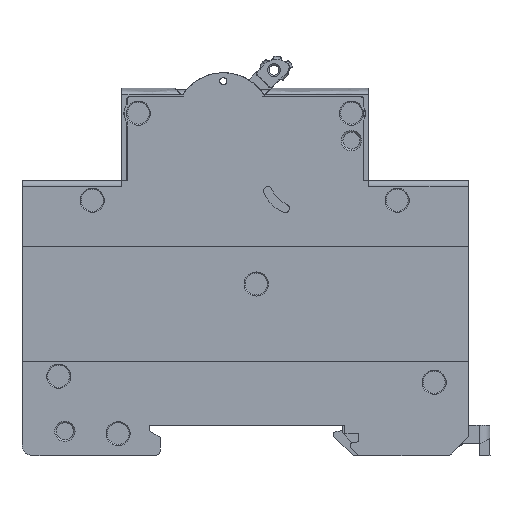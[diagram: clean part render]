
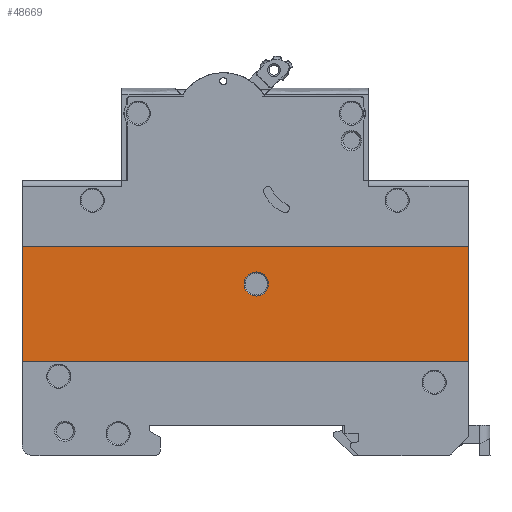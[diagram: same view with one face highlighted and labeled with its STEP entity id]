
A CAD part, left-side view. The second image highlights one B-rep face of the part: STEP entity #48669.
In plain terms, the highlighted planar face has unit normal (-1, 0, 0).
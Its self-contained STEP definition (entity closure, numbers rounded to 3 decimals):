
#10431 = CARTESIAN_POINT ( 'NONE',  ( -0.8, 0., -33.005 ) ) ;
#13716 = EDGE_CURVE ( 'NONE', #21821, #194115, #70188, .T. ) ;
#17157 = DIRECTION ( 'NONE',  ( 1., 0., 0. ) ) ;
#19890 = EDGE_LOOP ( 'NONE', ( #181759, #164590, #78314, #130432 ) ) ;
#20910 = AXIS2_PLACEMENT_3D ( 'NONE', #33735, #77571, #240454 ) ;
#21821 = VERTEX_POINT ( 'NONE', #34370 ) ;
#31173 = ORIENTED_EDGE ( 'NONE', *, *, #81270, .T. ) ;
#33735 = CARTESIAN_POINT ( 'NONE',  ( -0.8, 38.723, -18.864 ) ) ;
#34370 = CARTESIAN_POINT ( 'NONE',  ( -0.8, 0., -33.005 ) ) ;
#35940 = AXIS2_PLACEMENT_3D ( 'NONE', #120576, #17157, #159071 ) ;
#39325 = VERTEX_POINT ( 'NONE', #174456 ) ;
#48669 = ADVANCED_FACE ( 'NONE', ( #62279, #218746 ), #143100, .F. ) ;
#48924 = DIRECTION ( 'NONE',  ( 0., 1., 0. ) ) ;
#52069 = VECTOR ( 'NONE', #172202, 1000. ) ;
#54963 = VERTEX_POINT ( 'NONE', #86984 ) ;
#55674 = DIRECTION ( 'NONE',  ( 0., -1., 0. ) ) ;
#55780 = CARTESIAN_POINT ( 'NONE',  ( -0.8, 0., -12.005 ) ) ;
#62279 = FACE_OUTER_BOUND ( 'NONE', #19890, .T. ) ;
#67741 = LINE ( 'NONE', #229370, #253097 ) ;
#70188 = LINE ( 'NONE', #10431, #52069 ) ;
#77571 = DIRECTION ( 'NONE',  ( 1., 0., 0. ) ) ;
#78314 = ORIENTED_EDGE ( 'NONE', *, *, #214906, .F. ) ;
#81270 = EDGE_CURVE ( 'NONE', #188878, #253905, #219906, .T. ) ;
#81381 = EDGE_LOOP ( 'NONE', ( #31173, #82071 ) ) ;
#82071 = ORIENTED_EDGE ( 'NONE', *, *, #156606, .T. ) ;
#84778 = DIRECTION ( 'NONE',  ( 1., 0., 0. ) ) ;
#86984 = CARTESIAN_POINT ( 'NONE',  ( -0.8, 81.5, -12.005 ) ) ;
#92096 = VECTOR ( 'NONE', #239236, 1000. ) ;
#99607 = CIRCLE ( 'NONE', #35940, 2.2 ) ;
#101430 = CARTESIAN_POINT ( 'NONE',  ( -0.8, 81.5, -33.005 ) ) ;
#107518 = VECTOR ( 'NONE', #152554, 1000. ) ;
#120576 = CARTESIAN_POINT ( 'NONE',  ( -0.8, 38.723, -18.864 ) ) ;
#123215 = CARTESIAN_POINT ( 'NONE',  ( -0.8, 36.523, -18.864 ) ) ;
#130432 = ORIENTED_EDGE ( 'NONE', *, *, #252410, .F. ) ;
#143100 = PLANE ( 'NONE',  #165130 ) ;
#148259 = CARTESIAN_POINT ( 'NONE',  ( -0.8, 0., -34.08 ) ) ;
#152554 = DIRECTION ( 'NONE',  ( 0., 0., -1. ) ) ;
#155491 = EDGE_CURVE ( 'NONE', #39325, #21821, #176445, .T. ) ;
#156606 = EDGE_CURVE ( 'NONE', #253905, #188878, #99607, .T. ) ;
#156954 = CARTESIAN_POINT ( 'NONE',  ( -0.8, 81.5, -33.005 ) ) ;
#157059 = LINE ( 'NONE', #101430, #92096 ) ;
#159071 = DIRECTION ( 'NONE',  ( 0., 1., 0. ) ) ;
#164590 = ORIENTED_EDGE ( 'NONE', *, *, #155491, .F. ) ;
#165130 = AXIS2_PLACEMENT_3D ( 'NONE', #148259, #84778, #48924 ) ;
#172202 = DIRECTION ( 'NONE',  ( 0., 1., 0. ) ) ;
#174456 = CARTESIAN_POINT ( 'NONE',  ( -0.8, 0., -12.005 ) ) ;
#176445 = LINE ( 'NONE', #55780, #107518 ) ;
#181759 = ORIENTED_EDGE ( 'NONE', *, *, #13716, .F. ) ;
#188878 = VERTEX_POINT ( 'NONE', #123215 ) ;
#194115 = VERTEX_POINT ( 'NONE', #156954 ) ;
#214906 = EDGE_CURVE ( 'NONE', #54963, #39325, #67741, .T. ) ;
#218746 = FACE_BOUND ( 'NONE', #81381, .T. ) ;
#219906 = CIRCLE ( 'NONE', #20910, 2.2 ) ;
#225029 = CARTESIAN_POINT ( 'NONE',  ( -0.8, 40.923, -18.864 ) ) ;
#229370 = CARTESIAN_POINT ( 'NONE',  ( -0.8, 81.5, -12.005 ) ) ;
#239236 = DIRECTION ( 'NONE',  ( 0., 0., 1. ) ) ;
#240454 = DIRECTION ( 'NONE',  ( 0., 1., 0. ) ) ;
#252410 = EDGE_CURVE ( 'NONE', #194115, #54963, #157059, .T. ) ;
#253097 = VECTOR ( 'NONE', #55674, 1000. ) ;
#253905 = VERTEX_POINT ( 'NONE', #225029 ) ;
